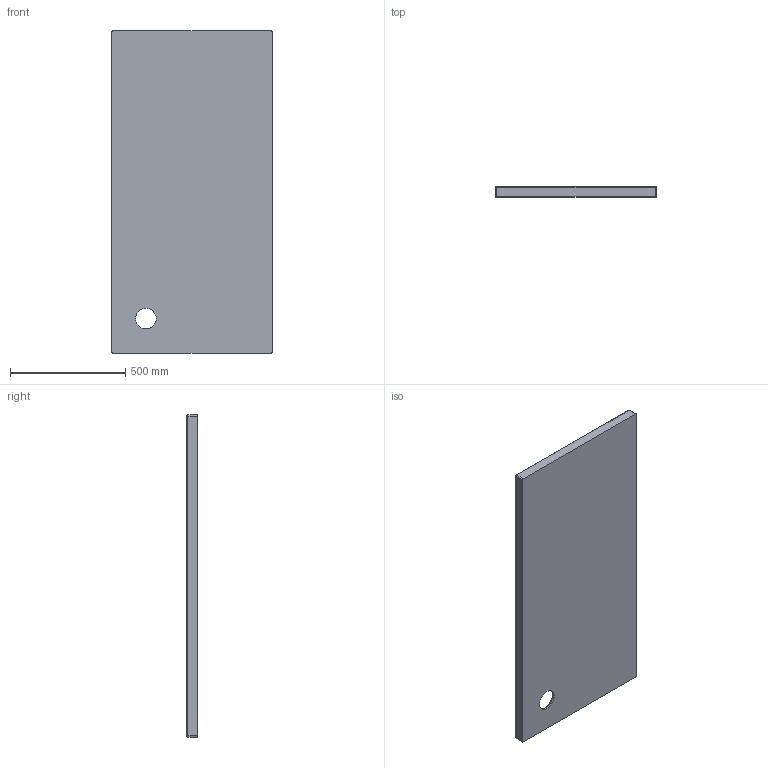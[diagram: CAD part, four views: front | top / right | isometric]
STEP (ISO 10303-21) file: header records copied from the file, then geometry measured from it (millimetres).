
FILE_DESCRIPTION(/* description */ (''),/* implementation_level */ '2;1');
FILE_NAME(/* name */ 'c:\worker\convert-fusion-r09\tmp\job-1\6\output\files\56c08bfb-dfbb-4de4-94c5-e3cf35a95975\f5e4ce52-47f8-471d-a1b2-ee6f0f5f5350.stp',/* time_stamp */ '2020-01-03T08:28:43+00:00',/* author */ (''),/* organization */ (''),/* preprocessor_version */ 'ST-DEVELOPER v18',/* originating_system */ 'Autodesk Translation Framework v8.12.0.6',/* authorisation */ '');
FILE_SCHEMA (('AUTOMOTIVE_DESIGN { 1 0 10303 214 3 1 1 }'));
Length unit declared in the file: millimetre
Products named in the file (1): Merton 70/140/P
Bounding box: 700 x 45 x 1400 mm (x, y, z)
Volume: 27805836.7 mm3; surface area: 2192814.5 mm2
Topology: 1 solids, 1 shells, 47 faces, 98 edges, 54 vertices
Faces by surface type: cylinder 21, plane 11, sphere 8, torus 4, bspline 3
Full cylindrical faces by diameter (mm): 90 x1
Entity records: 1796 total; most frequent: CARTESIAN_POINT 746, DIRECTION 230, ORIENTED_EDGE 198, EDGE_CURVE 99, AXIS2_PLACEMENT_3D 92, VERTEX_POINT 55, EDGE_LOOP 50, FACE_OUTER_BOUND 47
